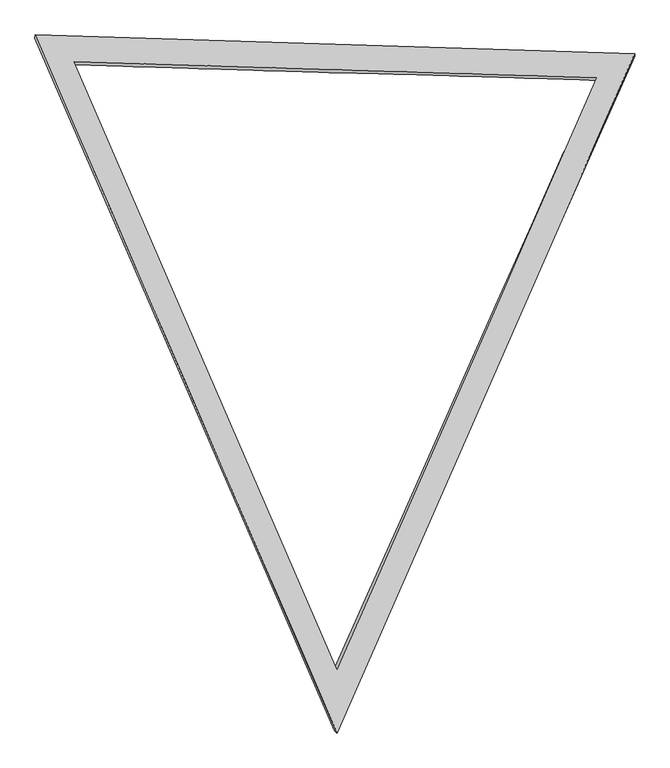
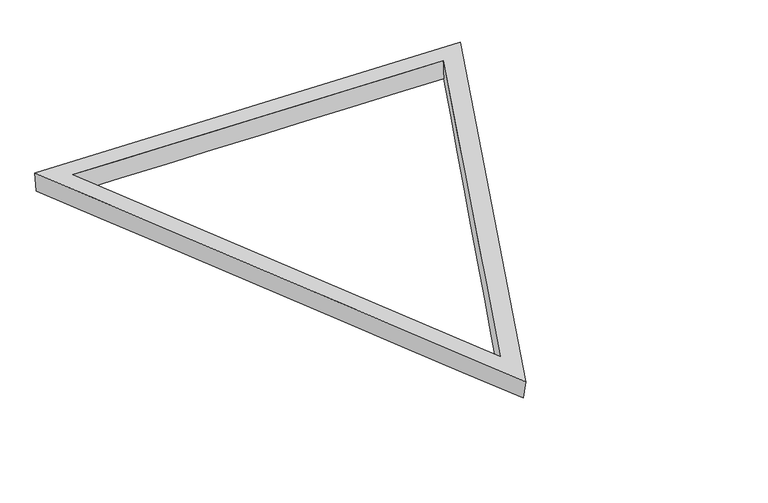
"""IFC4 building model written with IfcOpenShell, lengths in millimetres: plate geometry."""

from ifc_helpers import new_model, si_unit, frame, origin, place, context, project, spatial, source, transform, mapped, element, save
from ifc_brep_helpers import plane_surface, spline_surface, advanced_brep


def plate_b0178d5b(model_context):
    return source(origin(), model_context, "Body", "AdvancedBrep", [
        advanced_brep(
        [(4009.5933871, 6760.8479171, 0.0), (4010.4957429, 6786.6221177, 201.5229876), (6115.8042742, 1924.2205646, 201.3987565), (6098.4237888, 1940.965055, 0.0), (8189.7759949, 6655.4534731, 202.3104671), (8187.2541905, 6636.8841823, 0.0), (6096.0, 1435.5451829, 0.0), (8496.0020266, 6831.0121451, 0.0), (8496.5395075, 6849.1256131, 202.3903491), (6114.6539483, 1415.4664992, 201.3432807), (3695.9979734, 6973.442672, 0.0), (3696.7791342, 6999.7683134, 201.4859558)],
        [
            (0, 1),
            (1, 2),
            (2, 3),
            (3, 0),
            (2, 4),
            (4, 5),
            (5, 3),
            (0, 5),
            (4, 1),
            (6, 7),
            (7, 8),
            (8, 9),
            (9, 6),
            (7, 10),
            (10, 11),
            (11, 8),
            (9, 11),
            (10, 6),
        ],
        [
            spline_surface(1, 1, [[(4009.5933871, 6760.8479171, 0.0), (6098.4237888, 1940.965055, 0.0)], [(4010.4957429, 6786.6221177, 201.5229876), (6115.8042742, 1924.2205646, 201.3987565)]], [2, 2], [2, 2], [0.0, 1.0], [0.0, 1.0]),
            spline_surface(1, 1, [[(6098.4237888, 1940.965055, 0.0), (8187.2541905, 6636.8841823, 0.0)], [(6115.8042742, 1924.2205646, 201.3987565), (8189.7759949, 6655.4534731, 202.3104671)]], [2, 2], [2, 2], [0.0, 1.0], [0.0, 1.0]),
            spline_surface(1, 1, [[(8187.2541905, 6636.8841823, 0.0), (4009.5933871, 6760.8479171, 0.0)], [(8189.7759949, 6655.4534731, 202.3104671), (4010.4957429, 6786.6221177, 201.5229876)]], [2, 2], [2, 2], [0.0, 1.0], [0.0, 1.0]),
            spline_surface(1, 1, [[(6096.0, 1435.5451829, 0.0), (6114.6539483, 1415.4664992, 201.3432807)], [(8496.0020266, 6831.0121451, 0.0), (8496.5395075, 6849.1256131, 202.3903491)]], [2, 2], [2, 2], [0.0, 1.0], [0.0, 1.0]),
            spline_surface(1, 1, [[(8496.0020266, 6831.0121451, 0.0), (8496.5395075, 6849.1256131, 202.3903491)], [(3695.9979734, 6973.442672, 0.0), (3696.7791342, 6999.7683134, 201.4859558)]], [2, 2], [2, 2], [0.0, 1.0], [0.0, 1.0]),
            spline_surface(1, 1, [[(3695.9979734, 6973.442672, 0.0), (3696.7791342, 6999.7683134, 201.4859558)], [(6096.0, 1435.5451829, 0.0), (6114.6539483, 1415.4664992, 201.3432807)]], [2, 2], [2, 2], [0.0, 1.0], [0.0, 1.0]),
            plane_surface(frame((6102.65753, 5088.1201419, 201.7398618), z_axis=(-0.0001918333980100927, -0.00010860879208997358, 0.9999999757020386), x_axis=(0.39733219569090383, -0.9176748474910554, -2.344597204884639e-05))),
            plane_surface(frame((6096.0, 5080.0, 0.0), z_axis=(0.0, 0.0, -1.0), x_axis=(-0.3976418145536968, 0.9175407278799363, 0.0))),
        ],
        [
            (0, [[1, 2, 3, 4]]),
            (1, [[-3, 5, 6, 7]]),
            (2, [[-1, 8, -6, 9]]),
            (3, [[10, 11, 12, 13]]),
            (4, [[-11, 14, 15, 16]]),
            (5, [[-13, 17, -15, 18]]),
            (6, [[-12, -16, -17], [-2, -9, -5]]),
            (7, [[-10, -18, -14], [-4, -7, -8]]),
        ],
    ),
    ])


if __name__ == "__main__":
    model = new_model("IFC4")
    model_context = context("Model", 3, world=origin())
    ifc_project = project(units=[si_unit("LENGTHUNIT", "METRE", prefix="MILLI")], contexts=[model_context])
    site = spatial("IfcSite", under=ifc_project)
    building = spatial("IfcBuilding", under=site)
    placement = place(None, origin())
    plate_shape = plate_b0178d5b(model_context)
    element("IfcPlate", 1, ObjectType="tn_cpanel_patbase_triangle_flat_seamless_frame_02_cylinder : tn_triangle_seamless_frame_t8\"xh8\"", at=placement, inside=building, context=model_context, shape_type="MappedRepresentation", body=[
        mapped(plate_shape, transform((0.0, 0.0, 0.0), x_axis=(1.0, 0.0, 0.0), y_axis=(0.0, 1.0, 0.0), z_axis=(0.0, 0.0, 1.0))),
    ])
    save(model, "model.ifc")
